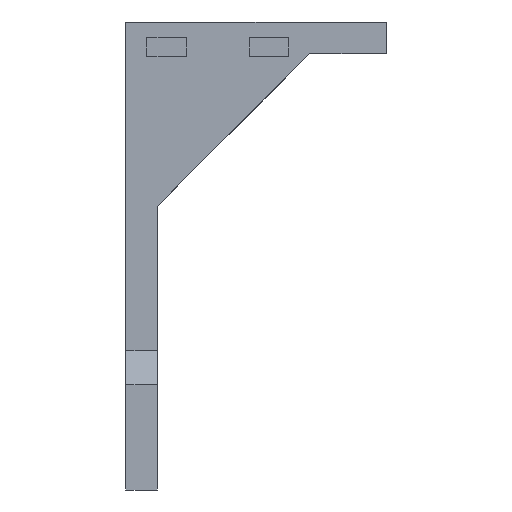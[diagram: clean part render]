
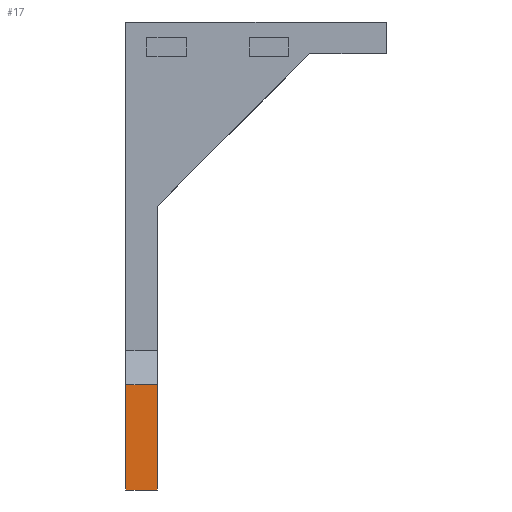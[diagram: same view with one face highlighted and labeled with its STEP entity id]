
A CAD part, front view. The second image highlights one B-rep face of the part: STEP entity #17.
In plain terms, the highlighted planar face has unit normal (0, -1, 0).
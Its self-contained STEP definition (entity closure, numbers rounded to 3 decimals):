
#17 = ADVANCED_FACE('',(#18),#32,.F.);
#18 = FACE_BOUND('',#19,.F.);
#19 = EDGE_LOOP('',(#20,#55,#83,#111));
#20 = ORIENTED_EDGE('',*,*,#21,.T.);
#21 = EDGE_CURVE('',#22,#24,#26,.T.);
#22 = VERTEX_POINT('',#23);
#23 = CARTESIAN_POINT('',(0.,-6.5,-51.));
#24 = VERTEX_POINT('',#25);
#25 = CARTESIAN_POINT('',(-6.,-6.5,-51.));
#26 = SURFACE_CURVE('',#27,(#31,#43),.PCURVE_S1.);
#27 = LINE('',#28,#29);
#28 = CARTESIAN_POINT('',(0.,-6.5,-51.));
#29 = VECTOR('',#30,1.);
#30 = DIRECTION('',(-1.,0.,0.));
#31 = PCURVE('',#32,#37);
#32 = PLANE('',#33);
#33 = AXIS2_PLACEMENT_3D('',#34,#35,#36);
#34 = CARTESIAN_POINT('',(0.,-6.5,-51.));
#35 = DIRECTION('',(0.,1.,0.));
#36 = DIRECTION('',(0.,0.,1.));
#37 = DEFINITIONAL_REPRESENTATION('',(#38),#42);
#38 = LINE('',#39,#40);
#39 = CARTESIAN_POINT('',(0.,0.));
#40 = VECTOR('',#41,1.);
#41 = DIRECTION('',(0.,-1.));
#42 = ( GEOMETRIC_REPRESENTATION_CONTEXT(2) 
PARAMETRIC_REPRESENTATION_CONTEXT() REPRESENTATION_CONTEXT('2D SPACE',''
  ) );
#43 = PCURVE('',#44,#49);
#44 = PLANE('',#45);
#45 = AXIS2_PLACEMENT_3D('',#46,#47,#48);
#46 = CARTESIAN_POINT('',(0.,-6.5,-51.));
#47 = DIRECTION('',(0.,0.,-1.));
#48 = DIRECTION('',(0.,1.,0.));
#49 = DEFINITIONAL_REPRESENTATION('',(#50),#54);
#50 = LINE('',#51,#52);
#51 = CARTESIAN_POINT('',(0.,0.));
#52 = VECTOR('',#53,1.);
#53 = DIRECTION('',(0.,-1.));
#54 = ( GEOMETRIC_REPRESENTATION_CONTEXT(2) 
PARAMETRIC_REPRESENTATION_CONTEXT() REPRESENTATION_CONTEXT('2D SPACE',''
  ) );
#55 = ORIENTED_EDGE('',*,*,#56,.T.);
#56 = EDGE_CURVE('',#24,#57,#59,.T.);
#57 = VERTEX_POINT('',#58);
#58 = CARTESIAN_POINT('',(-6.,-6.5,-31.));
#59 = SURFACE_CURVE('',#60,(#64,#71),.PCURVE_S1.);
#60 = LINE('',#61,#62);
#61 = CARTESIAN_POINT('',(-6.,-6.5,-51.));
#62 = VECTOR('',#63,1.);
#63 = DIRECTION('',(0.,0.,1.));
#64 = PCURVE('',#32,#65);
#65 = DEFINITIONAL_REPRESENTATION('',(#66),#70);
#66 = LINE('',#67,#68);
#67 = CARTESIAN_POINT('',(0.,-6.));
#68 = VECTOR('',#69,1.);
#69 = DIRECTION('',(1.,0.));
#70 = ( GEOMETRIC_REPRESENTATION_CONTEXT(2) 
PARAMETRIC_REPRESENTATION_CONTEXT() REPRESENTATION_CONTEXT('2D SPACE',''
  ) );
#71 = PCURVE('',#72,#77);
#72 = PLANE('',#73);
#73 = AXIS2_PLACEMENT_3D('',#74,#75,#76);
#74 = CARTESIAN_POINT('',(-6.,-6.5,-51.));
#75 = DIRECTION('',(1.,0.,0.));
#76 = DIRECTION('',(0.,0.,1.));
#77 = DEFINITIONAL_REPRESENTATION('',(#78),#82);
#78 = LINE('',#79,#80);
#79 = CARTESIAN_POINT('',(0.,0.));
#80 = VECTOR('',#81,1.);
#81 = DIRECTION('',(1.,0.));
#82 = ( GEOMETRIC_REPRESENTATION_CONTEXT(2) 
PARAMETRIC_REPRESENTATION_CONTEXT() REPRESENTATION_CONTEXT('2D SPACE',''
  ) );
#83 = ORIENTED_EDGE('',*,*,#84,.F.);
#84 = EDGE_CURVE('',#85,#57,#87,.T.);
#85 = VERTEX_POINT('',#86);
#86 = CARTESIAN_POINT('',(0.,-6.5,-31.));
#87 = SURFACE_CURVE('',#88,(#92,#99),.PCURVE_S1.);
#88 = LINE('',#89,#90);
#89 = CARTESIAN_POINT('',(0.,-6.5,-31.));
#90 = VECTOR('',#91,1.);
#91 = DIRECTION('',(-1.,0.,0.));
#92 = PCURVE('',#32,#93);
#93 = DEFINITIONAL_REPRESENTATION('',(#94),#98);
#94 = LINE('',#95,#96);
#95 = CARTESIAN_POINT('',(20.,0.));
#96 = VECTOR('',#97,1.);
#97 = DIRECTION('',(0.,-1.));
#98 = ( GEOMETRIC_REPRESENTATION_CONTEXT(2) 
PARAMETRIC_REPRESENTATION_CONTEXT() REPRESENTATION_CONTEXT('2D SPACE',''
  ) );
#99 = PCURVE('',#100,#105);
#100 = PLANE('',#101);
#101 = AXIS2_PLACEMENT_3D('',#102,#103,#104);
#102 = CARTESIAN_POINT('',(0.,-6.5,-31.));
#103 = DIRECTION('',(0.,0.707,-0.707));
#104 = DIRECTION('',(0.,0.707,0.707));
#105 = DEFINITIONAL_REPRESENTATION('',(#106),#110);
#106 = LINE('',#107,#108);
#107 = CARTESIAN_POINT('',(0.,0.));
#108 = VECTOR('',#109,1.);
#109 = DIRECTION('',(0.,-1.));
#110 = ( GEOMETRIC_REPRESENTATION_CONTEXT(2) 
PARAMETRIC_REPRESENTATION_CONTEXT() REPRESENTATION_CONTEXT('2D SPACE',''
  ) );
#111 = ORIENTED_EDGE('',*,*,#112,.F.);
#112 = EDGE_CURVE('',#22,#85,#113,.T.);
#113 = SURFACE_CURVE('',#114,(#118,#125),.PCURVE_S1.);
#114 = LINE('',#115,#116);
#115 = CARTESIAN_POINT('',(0.,-6.5,-51.));
#116 = VECTOR('',#117,1.);
#117 = DIRECTION('',(0.,0.,1.));
#118 = PCURVE('',#32,#119);
#119 = DEFINITIONAL_REPRESENTATION('',(#120),#124);
#120 = LINE('',#121,#122);
#121 = CARTESIAN_POINT('',(0.,0.));
#122 = VECTOR('',#123,1.);
#123 = DIRECTION('',(1.,0.));
#124 = ( GEOMETRIC_REPRESENTATION_CONTEXT(2) 
PARAMETRIC_REPRESENTATION_CONTEXT() REPRESENTATION_CONTEXT('2D SPACE',''
  ) );
#125 = PCURVE('',#126,#131);
#126 = PLANE('',#127);
#127 = AXIS2_PLACEMENT_3D('',#128,#129,#130);
#128 = CARTESIAN_POINT('',(0.,-6.5,-51.));
#129 = DIRECTION('',(1.,0.,0.));
#130 = DIRECTION('',(0.,0.,1.));
#131 = DEFINITIONAL_REPRESENTATION('',(#132),#136);
#132 = LINE('',#133,#134);
#133 = CARTESIAN_POINT('',(0.,0.));
#134 = VECTOR('',#135,1.);
#135 = DIRECTION('',(1.,0.));
#136 = ( GEOMETRIC_REPRESENTATION_CONTEXT(2) 
PARAMETRIC_REPRESENTATION_CONTEXT() REPRESENTATION_CONTEXT('2D SPACE',''
  ) );
